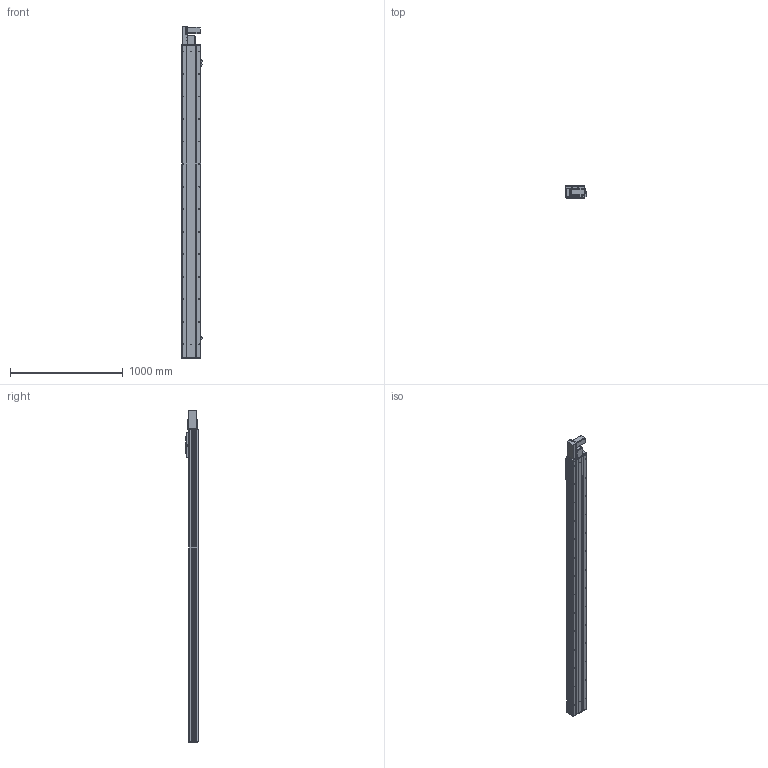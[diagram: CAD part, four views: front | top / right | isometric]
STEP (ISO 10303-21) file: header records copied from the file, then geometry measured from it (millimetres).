
FILE_DESCRIPTION (( 'STEP AP203' ), '1' );
FILE_NAME ('Y170CB-D105-S2450-BL-P400W.STEP', '2020-02-20T01:45:46', ( '微软用户' ), ( '微软中国' ), 'SwSTEP 2.0', 'SolidWorks 2017', '' );
FILE_SCHEMA (( 'CONFIG_CONTROL_DESIGN' ));
Length unit declared in the file: millimetre
Products named in the file (18): 70C--詩湍揤踡え-; B-源倛裔啣; Y170CB-D105-S2450-BL-P400W; 70CB--耜裔; 17B-耜蚾蟀諉啣----; 70C-雄赽釱-奻-; 0B-萇儂楊擘啣; 0C--雄赽釱俋欶-170; san松下电机400不带刹车----; 70CB-詩湍--; Y70俋欶BR----; Y100-135俋离換覜ん--; 70CB-掛极-; Y170CB-陔俋离換覜結え---; --70CB --喘謫眊楊擘啣-; 70B喘謫眊----; 70CB-耜裔啣-; Y1埴倛裔
Assembly tree (21 placements, depth 2):
  Y170CB-D105-S2450-BL-P400W
    B-源倛裔啣
    17B-耜蚾蟀諉啣----
    0B-萇儂楊擘啣
    san松下电机400不带刹车----
    Y70俋欶BR----
    70CB-掛极-
    --70CB --喘謫眊楊擘啣-
    70CB-耜裔啣-  x2
    70C--詩湍揤踡え-  x2
    70CB--耜裔
    70C-雄赽釱-奻-
    0C--雄赽釱俋欶-170
    70CB-詩湍--
    Y100-135俋离換覜ん--  x3
    Y170CB-陔俋离換覜結え---
    70B喘謫眊----
    Y1埴倛裔
Bounding box: 183.5 x 107 x 2947 mm (x, y, z)
Volume: 12247106.4 mm3; surface area: 4419807.3 mm2
Topology: 21 solids, 21 shells, 1063 faces, 2861 edges, 1898 vertices
Faces by surface type: cylinder 575, plane 464, cone 24
Entity records: 34072 total; most frequent: CARTESIAN_POINT 6276, DIRECTION 5542, ORIENTED_EDGE 5204, EDGE_CURVE 2602, AXIS2_PLACEMENT_3D 2044, VERTEX_POINT 1728, LINE 1454, VECTOR 1454
